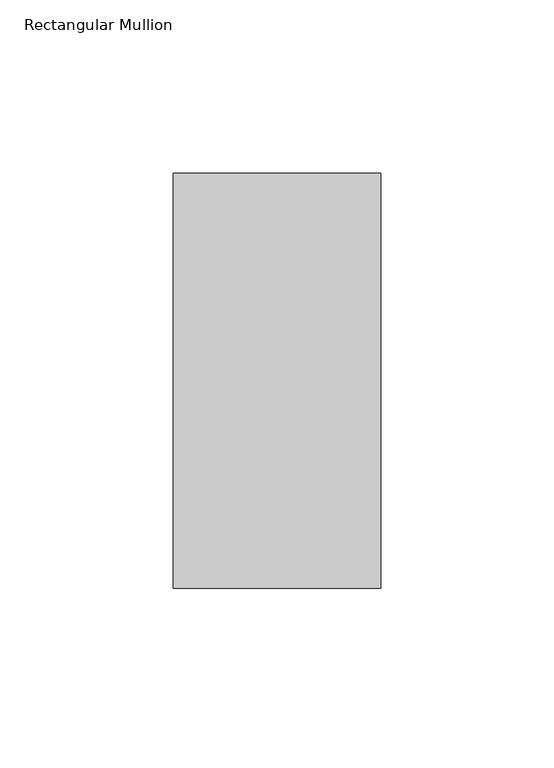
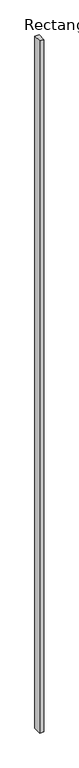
"""IFC4 building model written with IfcOpenShell, lengths in millimetres: member geometry, Rectangular Mullion : Terça."""

from ifc_helpers import new_model, si_unit, frame, origin, place, context, project, spatial, polyline, outline, extrude, source, transform, mapped, element, save


def rectangular_mullion_27214645(model_context):
    return source(origin(), model_context, "Body", "SweptSolid", [
        extrude(outline(polyline([(0.0, -120.0), (-60.0, -120.0), (-60.0, 0.0), (0.0, 0.0), (0.0, -120.0)])), frame((0.0, 0.0, -10700.006484), z_axis=(0.0, 0.0, 1.0), x_axis=(1.0, 0.0, 0.0)), (0.0, 0.0, 1.0), 10700.006484),
    ])


if __name__ == "__main__":
    model = new_model("IFC4")
    model_context = context("Model", 3, world=origin())
    ifc_project = project(units=[si_unit("LENGTHUNIT", "METRE", prefix="MILLI")], contexts=[model_context])
    site = spatial("IfcSite", under=ifc_project)
    building = spatial("IfcBuilding", under=site)
    placement = place(None, origin())
    rectangular_mullion_shape = rectangular_mullion_27214645(model_context)
    element("IfcMember", 1, ObjectType="Rectangular Mullion : Terça", at=placement, inside=building, context=model_context, shape_type="MappedRepresentation", body=[
        mapped(rectangular_mullion_shape, transform((0.0, 0.0, 0.0), x_axis=(1.0, 0.0, 0.0), y_axis=(0.0, 1.0, 0.0), z_axis=(0.0, 0.0, 1.0))),
    ])
    save(model, "model.ifc")
